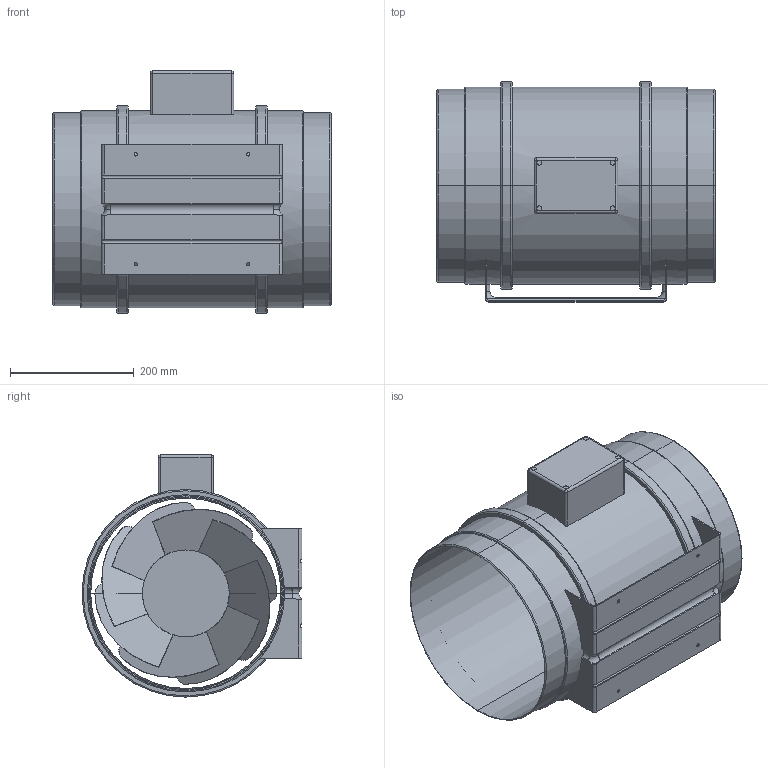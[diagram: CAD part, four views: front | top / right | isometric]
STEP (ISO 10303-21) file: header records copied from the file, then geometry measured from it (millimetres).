
FILE_DESCRIPTION(('STEP AP214'),'1');
FILE_NAME('fan_5211310000.stp','2017-03-31T12:38:42',('TraceParts'),('TraceParts S.A.'),'Spatial InterOp 3D',' ',' ');
FILE_SCHEMA(('automotive_design'));
Length unit declared in the file: millimetre
Products named in the file (1): fan_5211310000
Bounding box: 450 x 356 x 392 mm (x, y, z)
Volume: 4706908.4 mm3; surface area: 1370208.6 mm2
Topology: 1 solids, 1 shells, 195 faces, 538 edges, 349 vertices
Faces by surface type: cylinder 90, plane 73, torus 28, sphere 4
Entity records: 11213 total; most frequent: CARTESIAN_POINT 4569, DIRECTION 1101, ORIENTED_EDGE 1068, EDGE_CURVE 534, AXIS2_PLACEMENT_3D 455, VERTEX_POINT 349, EDGE_LOOP 221, CIRCLE 219
